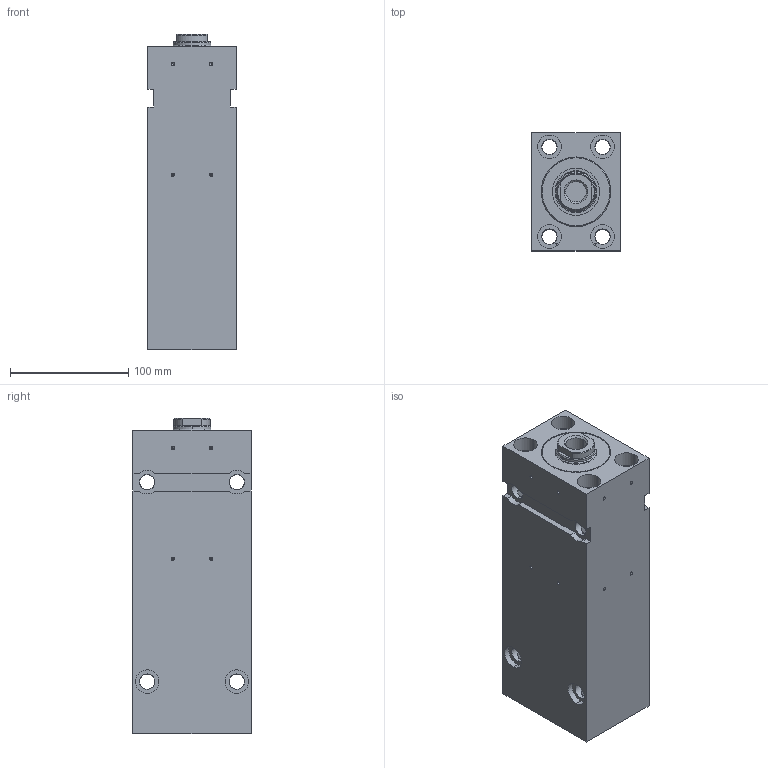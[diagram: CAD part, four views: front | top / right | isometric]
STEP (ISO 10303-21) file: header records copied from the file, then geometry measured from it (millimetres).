
FILE_DESCRIPTION (( 'STEP AP203' ), '1' );
FILE_NAME ('BZ_320.50_32.78.201.160 PP.KBC44__DH_0_.STEP', '2022-05-09T17:54:44', ( '' ), ( '' ), 'SwSTEP 2.0', 'SolidWorks 2020', '' );
FILE_SCHEMA (( 'CONFIG_CONTROL_DESIGN' ));
Length unit declared in the file: millimetre
Products named in the file (7): _Dichtungssatz f. BZ_RZ_FZ.50_32.xx.201.160 Artikelnr._ 053426(0)^BZ_320.50_32.78.201.160 PP.KBC44__DH_0_(2)_BZ_320.50_32.78.201.160 PP.KBC44__DH_0_; _Gehaeuse f. BZ320.50_32.Fehler in IDBF.201.160Fehler in IDNT00(1344frei278000))7^BZ_320.50_32.78.201.160 PP.KBC44__DH_0_(2)_BZ_320.50_32.78.201.160 PP.KBC44__DH_0_; BZ_320.50_32.78.201.160 PP.KBC44__DH_0_(2)^BZ_320.50_32.78.201.160 PP.KBC44__DH_0_; BZ_320.50_32.78.201.160 PP.KBC44__DH_0_; _Verschraubung komplett mit Dichtung f. BZ_RZ_FZ.50_32.201, Art.-Nr._ 042986(201)^BZ_320.50_32.78.201.160 PP.KBC44__DH_0_(2)_BZ_320.50_32.78.201.160 PP.KBC44__DH_0_; _Verschraubung hinten komplett mit Dichtung f. BZ500.50_32 LLL^BZ_320.50_32.78.201.160 PP.KBC44__DH_0_(2)_BZ_320.50_32.78.201.160 PP.KBC44__DH_0_; _Kolbenstange komplett f. BZ_RZ_FZ.50_32.xx.201.160(0_11 1 20 2.5 0 0 10 30 0 0 0)0^BZ_320.50_32.78.201.160 PP.KBC44__DH_0_(2)_BZ_320.50_32.78.201.160 PP.KBC44__DH_0_
Assembly tree (6 placements, depth 3):
  BZ_320.50_32.78.201.160 PP.KBC44__DH_0_
    BZ_320.50_32.78.201.160 PP.KBC44__DH_0_(2)^BZ_320.50_32.78.201.160 PP.KBC44__DH_0_
      _Gehaeuse f. BZ320.50_32.Fehler in IDBF.201.160Fehler in IDNT00(1344frei278000))7^BZ_320.50_32.78.201.160 PP.KBC44__DH_0_(2)_BZ_320.50_32.78.201.160 PP.KBC44__DH_0_
      _Verschraubung hinten komplett mit Dichtung f. BZ500.50_32 LLL^BZ_320.50_32.78.201.160 PP.KBC44__DH_0_(2)_BZ_320.50_32.78.201.160 PP.KBC44__DH_0_
      _Verschraubung komplett mit Dichtung f. BZ_RZ_FZ.50_32.201, Art.-Nr._ 042986(201)^BZ_320.50_32.78.201.160 PP.KBC44__DH_0_(2)_BZ_320.50_32.78.201.160 PP.KBC44__DH_0_
      _Dichtungssatz f. BZ_RZ_FZ.50_32.xx.201.160 Artikelnr._ 053426(0)^BZ_320.50_32.78.201.160 PP.KBC44__DH_0_(2)_BZ_320.50_32.78.201.160 PP.KBC44__DH_0_
      _Kolbenstange komplett f. BZ_RZ_FZ.50_32.xx.201.160(0_11 1 20 2.5 0 0 10 30 0 0 0)0^BZ_320.50_32.78.201.160 PP.KBC44__DH_0_(2)_BZ_320.50_32.78.201.160 PP.KBC44__DH_0_
Bounding box: 75 x 100 x 267 mm (x, y, z)
Volume: 1534924.8 mm3; surface area: 253061.8 mm2
Topology: 5 solids, 5 shells, 245 faces, 596 edges, 355 vertices
Faces by surface type: cylinder 150, plane 57, cone 38
Entity records: 8043 total; most frequent: CARTESIAN_POINT 1622, DIRECTION 1258, ORIENTED_EDGE 1144, EDGE_CURVE 572, AXIS2_PLACEMENT_3D 503, VERTEX_POINT 355, EDGE_LOOP 305, LINE 252
